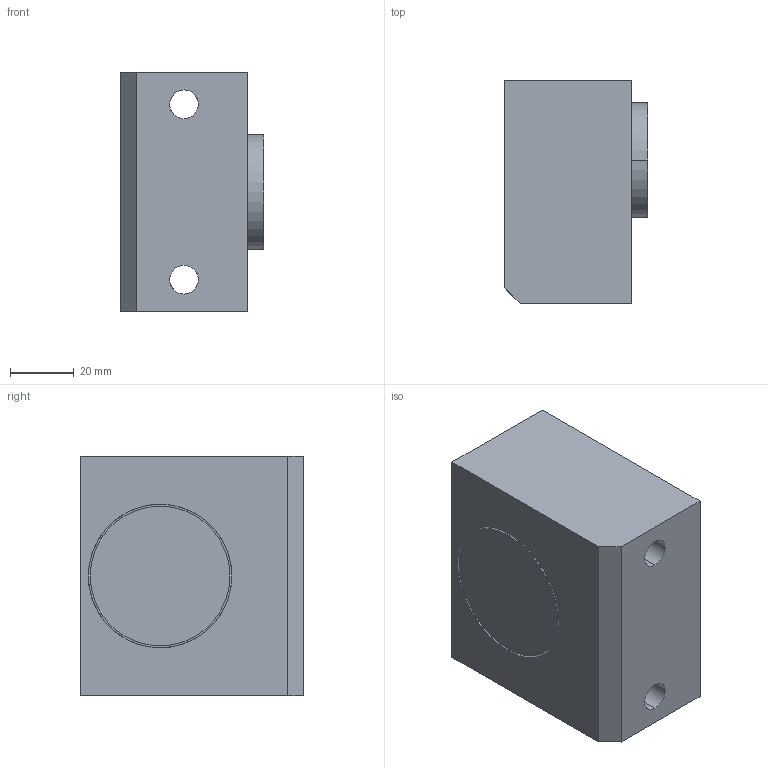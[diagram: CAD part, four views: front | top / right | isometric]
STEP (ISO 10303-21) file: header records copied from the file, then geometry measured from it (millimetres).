
FILE_DESCRIPTION(('CATIA V5 STEP Exchange'),'2;1');
FILE_NAME('C:\Users\Raffaele\Desktop\3D X SITO CF\751\GSB_OILLESS_M30904040075\STEP-2.03\751-040075.stp','2019-07-04T06:51:16+00:00',('none'),('none'),'CATIA Version 5 Release 20 GA (IN-10)','CATIA V5 STEP AP203','none');
FILE_SCHEMA(('CONFIG_CONTROL_DESIGN'));
Length unit declared in the file: millimetre
Products named in the file (1): 751-040075
Bounding box: 45 x 70 x 75 mm (x, y, z)
Volume: 195985.3 mm3; surface area: 36617.7 mm2
Topology: 1 solids, 1 shells, 29 faces, 95 edges, 74 vertices
Faces by surface type: cylinder 16, plane 13
Entity records: 1391 total; most frequent: CARTESIAN_POINT 523, ORIENTED_EDGE 190, DIRECTION 129, EDGE_CURVE 95, VERTEX_POINT 74, AXIS2_PLACEMENT_3D 70, CIRCLE 40, EDGE_LOOP 39
